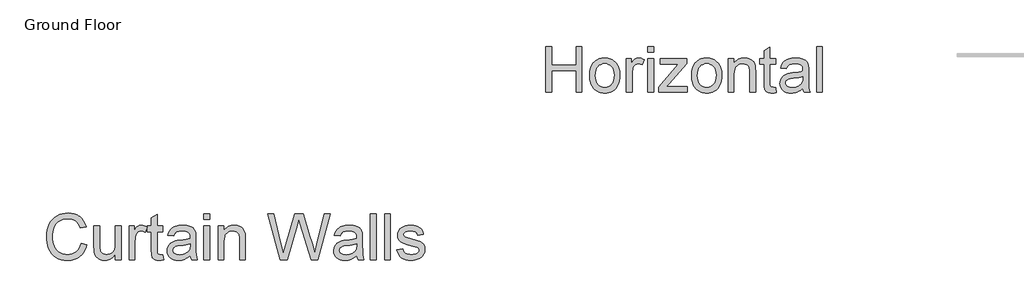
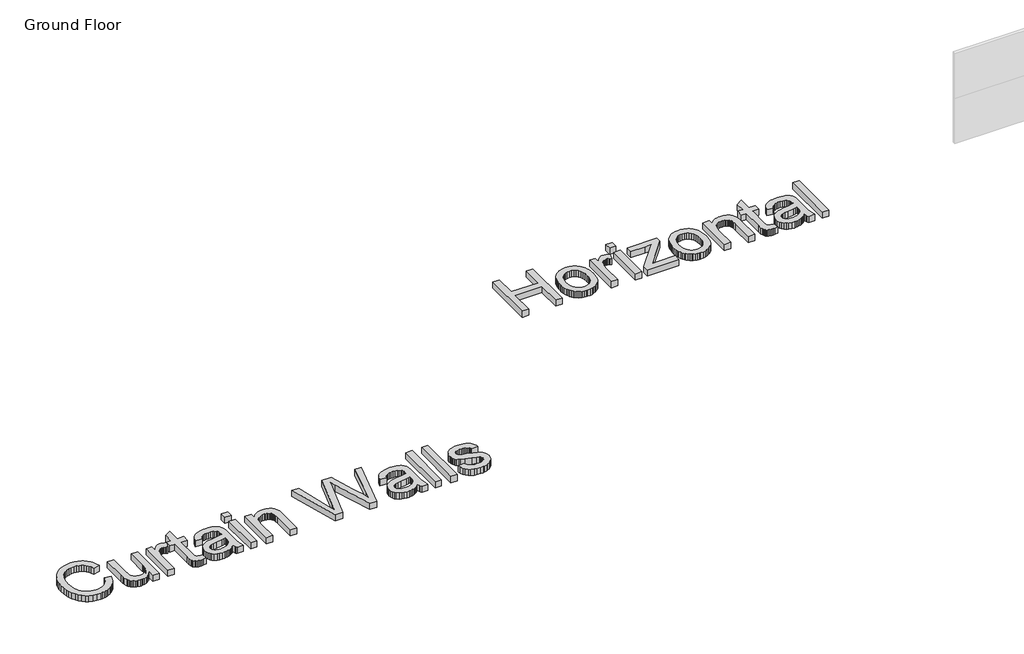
# One storey, part 5 of 9: 2 proxies.
"""IFC4 building model written with IfcOpenShell, lengths in millimetres."""

import ifcopenshell
import ifcopenshell.guid

model = None  # the IFC model being written
_history = None  # IfcOwnerHistory: only IFC2X3 demands one
_inside = {}  # id of a spatial element -> (the spatial element, [elements in it])
_under = {}  # id of a project, library or spatial element -> (it, [spatial elements below it])
_declared = {}  # id of a project -> (the project, [libraries it declares])
_typed = {}  # id of a type object -> (the type object, [elements of that type])
_made_of = {}  # id of a material, layer set ... -> (it, [elements and type objects made of it])


def new_model(schema):
    """Start an empty IFC model of exactly this schema.

    Asked for "IFC4X3", IfcOpenShell would pick the latest addendum, in which some entities
    have other attributes; the version numbers below select the first issue.
    IFC2X3 requires an IfcOwnerHistory on every rooted entity: one is made here for all.
    """
    global model, _history
    if schema == "IFC4X3":
        model = ifcopenshell.file(schema_version=(4, 3, 0, 0))
    else:
        model = ifcopenshell.file(schema=schema)
    _inside.clear()
    _under.clear()
    _declared.clear()
    _typed.clear()
    _made_of.clear()
    _history = None
    if model.schema == "IFC2X3":
        org = make("IfcOrganization", Name="unknown")
        user = make(
            "IfcPersonAndOrganization",
            ThePerson=make("IfcPerson", FamilyName="unknown"),
            TheOrganization=org,
        )
        app = make(
            "IfcApplication",
            ApplicationDeveloper=org,
            Version="unknown",
            ApplicationFullName="unknown",
            ApplicationIdentifier="unknown",
        )
        _history = make(
            "IfcOwnerHistory",
            OwningUser=user,
            OwningApplication=app,
            ChangeAction="ADDED",
            CreationDate=0,
        )
    return model


def make(cls, **values):
    """One entity of the class cls with the attributes given. An attribute that is None is left unset."""
    return model.create_entity(
        cls, **{name: value for name, value in values.items() if value is not None}
    )


def rooted(cls, **values):
    """An entity with a GlobalId (a new one), such as an element, a storey or a relation."""
    return make(cls, GlobalId=ifcopenshell.guid.new(), OwnerHistory=_history, **values)


def si_unit(unit_type, name, prefix=None):
    """IfcSIUnit, for example si_unit("LENGTHUNIT", "METRE", prefix="MILLI")."""
    return make("IfcSIUnit", UnitType=unit_type, Prefix=prefix, Name=name)


def assignment(units):
    """IfcUnitAssignment: the units of a project."""
    return None if units is None else make("IfcUnitAssignment", Units=units)


def point(xyz):
    """IfcCartesianPoint."""
    return None if xyz is None else make("IfcCartesianPoint", Coordinates=xyz)


def direction(xyz):
    """IfcDirection."""
    return None if xyz is None else make("IfcDirection", DirectionRatios=xyz)


def frame(location, z_axis=None, x_axis=None):
    """IfcAxis2Placement3D, a coordinate frame: its origin and axes. An axis left out is left unset."""
    return make(
        "IfcAxis2Placement3D",
        Location=point(location),
        Axis=direction(z_axis),
        RefDirection=direction(x_axis),
    )


def origin():
    """The frame at (0, 0, 0) with its axes left unset."""
    return frame((0.0, 0.0, 0.0))


def origin_with_axes():
    """The frame at (0, 0, 0) with the z axis (0, 0, 1) and the x axis (1, 0, 0) written out."""
    return frame((0.0, 0.0, 0.0), z_axis=(0.0, 0.0, 1.0), x_axis=(1.0, 0.0, 0.0))


def place(relative_to, where):
    """IfcLocalPlacement: puts the frame where relative to a parent placement (None: the world)."""
    return make(
        "IfcLocalPlacement", PlacementRelTo=relative_to, RelativePlacement=where
    )


def context(
    kind, dimensions, precision=None, world=None, true_north=None, identifier=None
):
    """IfcGeometricRepresentationContext, for example the 3D "Model" context."""
    return make(
        "IfcGeometricRepresentationContext",
        ContextIdentifier=identifier,
        ContextType=kind,
        CoordinateSpaceDimension=dimensions,
        Precision=precision,
        WorldCoordinateSystem=world,
        TrueNorth=true_north,
    )


def project(units=None, contexts=None):
    """IfcProject with its units and contexts."""
    return rooted(
        "IfcProject",
        Name="project",
        RepresentationContexts=contexts,
        UnitsInContext=assignment(units),
    )


def spatial(cls, under=None, at=None, **own):
    """A site, building, storey or space (cls), placed at a placement, below another one or the project."""
    s = rooted(cls, ObjectPlacement=at, **own)
    if under is not None:
        _under.setdefault(under.id(), (under, []))[1].append(s)
    return s


def polyline(points):
    """IfcPolyline through the points."""
    return make("IfcPolyline", Points=[point(p) for p in points])


def outline(outer, holes=None, kind="AREA"):
    """IfcArbitraryClosedProfileDef: a profile drawn as a closed curve; with holes, ...WithVoids."""
    if holes is None:
        return make("IfcArbitraryClosedProfileDef", ProfileType=kind, OuterCurve=outer)
    return make(
        "IfcArbitraryProfileDefWithVoids",
        ProfileType=kind,
        OuterCurve=outer,
        InnerCurves=holes,
    )


def extrude(swept, where, along, depth):
    """IfcExtrudedAreaSolid: the profile swept, set in the frame where, extruded along a direction by depth."""
    return make(
        "IfcExtrudedAreaSolid",
        SweptArea=swept,
        Position=where,
        ExtrudedDirection=direction(along),
        Depth=depth,
    )


def shape(context_of_items, identifier, shape_type, items):
    """IfcShapeRepresentation: the items that make up one representation, for example the "Body"."""
    return make(
        "IfcShapeRepresentation",
        ContextOfItems=context_of_items,
        RepresentationIdentifier=identifier,
        RepresentationType=shape_type,
        Items=items,
    )


def made_of(thing, what):
    """Note that an element or type object is made of a material, layer set ...; save() writes the relation."""
    if what is not None:
        _made_of.setdefault(what.id(), (what, []))[1].append(thing)
    return thing


def element(
    cls,
    number,
    at=None,
    inside=None,
    cuts=None,
    type_object=None,
    material=None,
    context=None,
    identifier="Body",
    shape_type=None,
    held_by="IfcProductDefinitionShape",
    body=None,
    shapes=None,
    **own,
):
    """One element of the class cls, such as IfcWall. Its Tag is "e" and its number.

    at: its placement. inside: the storey or other place that contains it. cuts: it is an
    opening in that element (IfcRelVoidsElement). A single representation is given by context,
    identifier, shape_type and body (its items); several are given by shapes. held_by: the class
    of the entity that holds the representations. save() writes the other relations.
    """
    e = rooted(cls, Tag="e%d" % number, ObjectPlacement=at, **own)
    if body is not None:
        shapes = [shape(context, identifier, shape_type, body)]
    if shapes is not None:
        e.Representation = make(held_by, Representations=shapes)
    if inside is not None:
        _inside.setdefault(inside.id(), (inside, []))[1].append(e)
    if cuts is not None:
        rooted(
            "IfcRelVoidsElement", RelatingBuildingElement=cuts, RelatedOpeningElement=e
        )
    if type_object is not None:
        _typed.setdefault(type_object.id(), (type_object, []))[1].append(e)
    return made_of(e, material)


def aggregate(whole, parts):
    """IfcRelAggregates: a whole, such as a stair, and the parts it consists of."""
    return rooted("IfcRelAggregates", RelatingObject=whole, RelatedObjects=parts)


def save(model, path):
    """Write the relations noted so far, then the file.

    IfcRelAggregates (storeys below a building ...), IfcRelContainedInSpatialStructure (elements
    in a storey), IfcRelDefinesByType, IfcRelAssociatesMaterial and IfcRelDeclares: one each for
    every whole, place, type object, material and project.
    """
    for whole, parts in _under.values():
        aggregate(whole, parts)
    for where, things in _inside.values():
        rooted(
            "IfcRelContainedInSpatialStructure",
            RelatedElements=things,
            RelatingStructure=where,
        )
    for kind, things in _typed.values():
        rooted("IfcRelDefinesByType", RelatedObjects=things, RelatingType=kind)
    for what, things in _made_of.values():
        rooted("IfcRelAssociatesMaterial", RelatedObjects=things, RelatingMaterial=what)
    for by, libraries in _declared.values():
        rooted("IfcRelDeclares", RelatingContext=by, RelatedDefinitions=libraries)
    model.write(path)


model = new_model("IFC4")

# Units and contexts
model_context = context("Model", 3, world=origin())
ifc_project = project(units=[si_unit("LENGTHUNIT", "METRE", prefix="MILLI")], contexts=[model_context])

# Site, building, storey
site = spatial("IfcSite", under=ifc_project)
building = spatial("IfcBuilding", under=site)
storey = spatial("IfcBuildingStorey", under=building, Name="Ground Floor", Elevation=0.0)

# Proxies
placement = place(None, origin())
element("IfcBuildingElementProxy", 1, Name="1200mm Arial", ObjectType="1200mm Arial", at=placement, inside=storey, context=model_context, shape_type="SweptSolid", body=[
    extrude(outline(polyline([(-73405.7068137, -17.5087086), (-73258.7977228, -55.3837086), (-73287.8675026, -146.7445929), (-73306.0204234, -188.1008828), (-73326.5853648, -226.5744047), (-73349.5623268, -262.1651584), (-73374.9513094, -294.873144), (-73402.7523126, -324.6983615), (-73432.9653364, -351.6408109), (-73465.2630992, -375.5480597), (-73499.3183194, -396.2676753), (-73535.1309969, -413.7996577), (-73572.7011319, -428.1440069), (-73612.0287242, -439.300723), (-73653.1137739, -447.2698059), (-73695.956281, -452.0512557), (-73740.5562455, -453.6450723), (-73830.1417391, -448.8210311), (-73910.9578791, -434.3489075), (-73983.0046653, -410.2287015), (-74046.2820978, -376.4604132), (-74101.6599387, -333.5461731), (-74150.0079501, -281.988112), (-74191.3261319, -221.7862299), (-74225.6144842, -152.9405268), (-74252.541242, -78.4279203), (-74271.7746404, -1.225328), (-74283.3146795, 78.6672502), (-74287.1613592, 161.2498141), (-74282.8125488, 249.8579462), (-74269.7661177, 332.6198425), (-74248.0220658, 409.535503), (-74217.5803933, 480.6049277), (-74179.122563, 544.6534895), (-74133.3300381, 600.5065612), (-74080.2028187, 648.1641429), (-74019.7409046, 687.6262345), (-73953.9976518, 718.5700378), (-73885.026416, 740.6727544), (-73812.8271972, 753.9343844), (-73737.3999955, 758.3549277), (-73653.3738059, 752.6342246), (-73576.3236461, 735.4721152), (-73540.4145774, 722.6005332), (-73506.2495161, 706.8685996), (-73473.8284623, 688.2763144), (-73443.151416, 666.8236777), (-73414.4784091, 642.7752047), (-73388.0694735, 616.3954107), (-73363.9246093, 587.6842956), (-73342.0438166, 556.6418595), (-73305.0744451, 487.5630243), (-73277.1613592, 409.158905), (-73424.0704501, 374.1532232), (-73447.2043279, 431.9251514), (-73475.0008478, 481.2863908), (-73507.4600097, 522.2369412), (-73544.5818137, 554.7768027), (-73586.5814586, 579.5695051), (-73633.6741433, 597.2785783), (-73685.8598677, 607.9040222), (-73743.1386319, 611.4458368), (-73809.0432839, 607.5184576), (-73869.3168989, 595.7363198), (-73923.9594771, 576.0994235), (-73972.9710183, 548.6077686), (-74015.7328258, 514.4987487), (-74051.6262029, 475.0097573), (-74080.6511496, 430.1407942), (-74102.807666, 379.8918595), (-74119.1896795, 326.5404746), (-74130.8911177, 272.3641607), (-74137.9119806, 217.3629178), (-74140.2522683, 161.5367459), (-74137.4815829, 91.3819164), (-74129.1695268, 25.8179959), (-74115.3160999, -35.1550155), (-74095.9213023, -91.5371177), (-74070.6713023, -142.2074835), (-74039.2522683, -186.0452853), (-74001.6642001, -223.0505233), (-73957.9070978, -253.2231973), (-73910.1060502, -276.6350403), (-73860.3861461, -293.3577853), (-73808.7473854, -303.3914324), (-73755.1897683, -306.7359814), (-73691.3205389, -302.1809388), (-73632.5622825, -288.5158109), (-73578.9149991, -265.7405978), (-73530.3786887, -233.8552995), (-73488.1010786, -193.0033819), (-73453.2298961, -143.3283109), (-73425.7651411, -84.8300865), (-73405.7068137, -17.5087086)])), origin_with_axes(), (0.0, 0.0, 1.0), 150.0),
    extrude(outline(polyline([(-72524.2522683, -435.2814359), (-72524.2522683, -286.9376859), (-72549.7354004, -326.0097296), (-72577.4063876, -359.8721674), (-72607.2652299, -388.5249995), (-72639.3119273, -411.9682257), (-72673.5464799, -430.2018461), (-72709.9688876, -443.2258606), (-72748.5791504, -451.0402694), (-72789.3772683, -453.6450723), (-72825.7727761, -451.8158819), (-72860.9308904, -446.3283109), (-72894.8516113, -437.1823592), (-72927.5349387, -424.3780268), (-72957.5372469, -408.8119757), (-72983.4149103, -391.3808677), (-73005.1679288, -372.084703), (-73022.7963023, -350.9234814), (-73037.2056596, -327.5923379), (-73049.3016291, -301.7864075), (-73066.5534046, -242.7501859), (-73073.0093705, -187.0854132), (-73075.1613592, -106.1706405), (-73075.1613592, 427.8094732), (-72928.2522683, 427.8094732), (-72928.2522683, -37.0200723), (-72926.0285467, -129.9859814), (-72919.3573819, -186.7984814), (-72910.5611283, -213.2769082), (-72897.945095, -236.7604842), (-72881.5092817, -257.2492093), (-72861.2536887, -274.7430836), (-72837.788046, -288.7399764), (-72811.7220836, -298.7377569), (-72783.0558016, -304.7364253), (-72751.7892001, -306.7359814), (-72719.5900701, -304.6915922), (-72688.4131347, -298.5584245), (-72658.258394, -288.3364785), (-72629.1258478, -274.0257541), (-72602.5936212, -256.1911483), (-72580.2398393, -235.3975581), (-72562.0645019, -211.6449835), (-72548.0676092, -184.9334245), (-72537.6483975, -153.5592236), (-72530.2061035, -115.8187228), (-72525.7407271, -71.7119224), (-72524.2522683, -21.2388223), (-72524.2522683, 427.8094732), (-72377.3431773, 427.8094732), (-72377.3431773, -435.2814359), (-72524.2522683, -435.2814359)])), origin_with_axes(), (0.0, 0.0, 1.0), 150.0),
    extrude(outline(polyline([(-72175.3431773, -435.2814359), (-72175.3431773, 427.8094732), (-72046.7977228, 427.8094732), (-72046.7977228, 300.1248141), (-72022.5878506, 340.9408652), (-71999.3105069, 374.1532232), (-71976.9656916, 399.761888), (-71955.5534046, 417.7668595), (-71934.1052512, 430.1945939), (-71911.6528364, 439.071547), (-71888.1961603, 444.3977189), (-71863.7352228, 446.1731095), (-71827.2948819, 443.3396578), (-71790.5676092, 434.8393027), (-71753.5534046, 420.6720442), (-71716.2522683, 400.8378823), (-71765.3176092, 269.1361777), (-71791.1414728, 282.3171081), (-71816.9653364, 291.7320584), (-71842.7892001, 297.3810286), (-71868.6130637, 299.2640186), (-71891.1282448, 297.4527615), (-71912.4777654, 292.0189902), (-71932.6616255, 282.9627047), (-71951.6798251, 270.283905), (-71968.8150346, 254.3950556), (-71983.3499245, 235.7086209), (-71995.2844948, 214.224601), (-72004.6187455, 189.9429959), (-72015.0379572, 149.8442743), (-72022.4802512, 107.8804959), (-72028.4340864, 18.3577686), (-72028.4340864, -435.2814359), (-72175.3431773, -435.2814359)])), origin_with_axes(), (0.0, 0.0, 1.0), 150.0),
    extrude(outline(polyline([(-71312.2522683, -312.7615495), (-71293.8886319, -439.5854132), (-71352.064058, -450.1301575), (-71403.7835183, -453.6450723), (-71441.2819202, -452.120747), (-71474.2970126, -447.5477711), (-71502.8287952, -439.9261447), (-71526.8772683, -429.2558677), (-71547.070095, -416.1108038), (-71564.0349387, -401.0648166), (-71577.7717995, -384.1179061), (-71588.2806773, -365.2700723), (-71596.0637029, -340.002139), (-71601.6230069, -303.7949302), (-71606.0704501, -198.5626859), (-71606.0704501, 280.9003823), (-71716.2522683, 280.9003823), (-71716.2522683, 427.8094732), (-71606.0704501, 427.8094732), (-71606.0704501, 637.5566323), (-71459.1613592, 723.9231095), (-71459.1613592, 427.8094732), (-71312.2522683, 427.8094732), (-71312.2522683, 280.9003823), (-71459.1613592, 280.9003823), (-71459.1613592, -194.2587086), (-71457.2245694, -242.60672), (-71451.4142001, -270.0087086), (-71441.263987, -285.1802285), (-71426.307666, -296.8368336), (-71405.1105779, -304.2611944), (-71376.2380637, -306.7359814), (-71312.2522683, -312.7615495)])), origin_with_axes(), (0.0, 0.0, 1.0), 150.0),
    extrude(outline(polyline([(-70614.4340864, -325.0996177), (-70649.2694025, -357.7919118), (-70684.6247825, -385.2835666), (-70720.5002264, -407.5745822), (-70756.8957342, -424.6649586), (-70794.2237704, -437.3437584), (-70832.8967995, -446.4000439), (-70872.9148215, -451.8338152), (-70914.2778364, -453.6450723), (-70979.6893244, -449.2872953), (-71037.0487881, -436.2139643), (-71086.3562278, -414.4250794), (-71127.6116433, -383.9206405), (-71160.1873712, -346.6374373), (-71183.4557484, -304.5122598), (-71197.4167746, -257.5451078), (-71202.0704501, -205.7359814), (-71200.3129927, -174.5859459), (-71195.0406205, -144.834703), (-71186.2533336, -116.4822527), (-71173.9511319, -89.528595), (-71158.7885786, -64.5655268), (-71141.420237, -42.184845), (-71121.846107, -22.3865495), (-71100.0661887, -5.1706405), (-71051.467112, 22.8052118), (-70997.2011319, 43.033905), (-70944.3339444, 54.2959789), (-70870.0903364, 65.127655), (-70719.8815296, 88.3691323), (-70661.8854359, 101.496263), (-70615.2948819, 115.627655), (-70614.4340864, 148.3378823), (-70616.9626731, 183.9532942), (-70624.548433, 213.9018027), (-70637.1913663, 238.1834078), (-70654.8914728, 256.7981095), (-70685.4855779, 275.3769448), (-70722.7508478, 288.6475414), (-70766.6872825, 296.6098993), (-70817.2948819, 299.2640186), (-70864.3517001, 297.4975946), (-70904.8090864, 292.1983226), (-70938.667041, 283.3662026), (-70965.9255637, 271.0012345), (-70988.3241788, 254.1350236), (-71007.6024103, 231.7991749), (-71023.7602583, 203.9936884), (-71036.7977228, 170.7185641), (-71183.7068137, 189.0822005), (-71172.5254394, 231.4046436), (-71158.2057484, 269.4231095), (-71140.7477406, 303.1375982), (-71120.151416, 332.5481095), (-71095.5290793, 358.2464405), (-71065.9930353, 380.824388), (-71031.5432839, 400.2819519), (-70992.1798251, 416.6191323), (-70948.700688, 429.5489973), (-70901.9039018, 438.7846152), (-70851.7894664, 444.325986), (-70798.3573819, 446.1731095), (-70746.1268244, 444.5411848), (-70699.0431063, 439.6454107), (-70657.1062278, 431.4857871), (-70620.3161887, 420.0623141), (-70588.3681241, 406.1730208), (-70560.9571688, 390.6159362), (-70538.0833229, 373.3910605), (-70519.7465864, 354.4983936), (-70504.8799316, 333.4716713), (-70492.4163308, 309.8446294), (-70474.698291, 254.7895868), (-70469.3183194, 204.002655), (-70467.5249955, 126.2441323), (-70467.5249955, -56.5314359), (-70465.6599387, -215.7427285), (-70460.0647683, -311.7572882), (-70449.0178933, -374.8464217), (-70430.7977228, -435.2814359), (-70577.7068137, -435.2814359), (-70590.7622114, -410.7487655), (-70601.2352228, -384.2075723), (-70614.4340864, -325.0996177)]), holes=[polyline([(-70614.4340864, -31.2814359), (-70658.8367853, -43.9961021), (-70713.1386319, -55.7423734), (-70851.4397683, -76.3297314), (-70927.6560325, -87.5918052), (-70977.8332342, -100.1450723), (-71010.7227938, -116.428453), (-71035.0761319, -138.8808677), (-71050.1400523, -165.7807257), (-71055.1613592, -195.4064359), (-71052.4265403, -218.2354487), (-71044.2220836, -239.0918052), (-71030.5479891, -257.9755055), (-71011.4042569, -274.8865495), (-70986.9702192, -288.820676), (-70957.4252086, -298.7736234), (-70922.7692249, -304.7453919), (-70883.0022683, -306.7359814), (-70842.401416, -304.5391596), (-70804.0960183, -297.9486944), (-70768.0860751, -286.9645858), (-70734.3715864, -271.5868336), (-70703.9568137, -253.088698), (-70677.8460183, -232.7434388), (-70656.0392001, -210.5510559), (-70638.5363592, -186.5115495), (-70628.3682129, -164.9916632), (-70621.1052512, -138.8808677), (-70616.7474742, -108.1791632), (-70615.2948819, -72.8865495), (-70614.4340864, -31.2814359)])]), origin_with_axes(), (0.0, 0.0, 1.0), 150.0),
    extrude(outline(polyline([(-70265.5249955, -435.2814359), (-70265.5249955, 427.8094732), (-70118.6159046, 427.8094732), (-70118.6159046, -435.2814359), (-70265.5249955, -435.2814359)])), origin_with_axes(), (0.0, 0.0, 1.0), 150.0),
    extrude(outline(polyline([(-70265.5249955, 593.0822005), (-70265.5249955, 739.9912914), (-70118.6159046, 739.9912914), (-70118.6159046, 593.0822005), (-70265.5249955, 593.0822005)])), origin_with_axes(), (0.0, 0.0, 1.0), 150.0),
    extrude(outline(polyline([(-69898.2522683, -435.2814359), (-69898.2522683, 427.8094732), (-69751.3431773, 427.8094732), (-69751.3431773, 307.2981095), (-69727.1064053, 339.8469377), (-69700.3051802, 368.055922), (-69670.9395019, 391.9250627), (-69639.0093705, 411.4543595), (-69604.514786, 426.6438127), (-69567.4557484, 437.493422), (-69527.8322576, 444.0031877), (-69485.6443137, 446.1731095), (-69448.6749423, 444.4246188), (-69413.2298961, 439.1791465), (-69379.3091752, 430.4366926), (-69346.9127796, 418.1972573), (-69317.2691362, 403.1154036), (-69291.6066717, 385.8456948), (-69269.9253862, 366.3881309), (-69252.2252796, 344.7427118), (-69225.5047541, 294.9959078), (-69208.1812455, 236.7128823), (-69202.3708762, 180.9763766), (-69200.4340864, 94.6816323), (-69200.4340864, -435.2814359), (-69347.3431773, -435.2814359), (-69347.3431773, 74.8833368), (-69351.5754217, 150.8485357), (-69356.8657271, 180.5997786), (-69364.2721546, 204.8634505), (-69374.3596014, 225.2983759), (-69387.6929643, 243.5633794), (-69404.2722434, 259.6584611), (-69424.0974387, 273.5836209), (-69446.4870871, 284.8187949), (-69470.7597256, 292.8439192), (-69496.9153542, 297.6589938), (-69524.9539728, 299.2640186), (-69569.5629039, 295.6594377), (-69610.9976518, 284.8456948), (-69649.2582164, 266.8227899), (-69684.3445978, 241.5907232), (-69700.0473899, 225.5539245), (-69713.6564764, 206.2801763), (-69725.1718572, 183.7694785), (-69734.5935325, 158.0218311), (-69747.1557661, 96.8156877), (-69751.3431773, 22.6617459), (-69751.3431773, -435.2814359), (-69898.2522683, -435.2814359)])), origin_with_axes(), (0.0, 0.0, 1.0), 150.0),
    extrude(outline(polyline([(-68310.6585183, -435.2814359), (-68631.1613592, 739.9912914), (-68479.6613592, 739.9912914), (-68293.729541, -32.4291632), (-68236.3431773, -270.8695041), (-68174.9397683, -59.9746177), (-67941.9511319, 739.9912914), (-67723.5960183, 739.9912914), (-67554.3062455, 160.1020868), (-67515.6601163, 52.574388), (-67481.7842285, -55.0967768), (-67452.6785822, -162.9114075), (-67428.3431773, -270.8695041), (-67372.6784046, -39.3155268), (-67185.0249955, 739.9912914), (-67033.5249955, 739.9912914), (-67354.3147683, -435.2814359), (-67511.2664728, -435.2814359), (-67793.0335183, 471.4231095), (-67832.3431773, 597.9600414), (-67876.5306773, 445.5992459), (-68133.3346546, -435.2814359), (-68310.6585183, -435.2814359)])), origin_with_axes(), (0.0, 0.0, 1.0), 150.0),
    extrude(outline(polyline([(-66354.0704501, -325.0996177), (-66388.9057661, -357.7919118), (-66424.2611461, -385.2835666), (-66460.13659, -407.5745822), (-66496.5320978, -424.6649586), (-66533.860134, -437.3437584), (-66572.5331631, -446.4000439), (-66612.5511852, -451.8338152), (-66653.9142001, -453.6450723), (-66719.325688, -449.2872953), (-66776.6851518, -436.2139643), (-66825.9925914, -414.4250794), (-66867.2480069, -383.9206405), (-66899.8237349, -346.6374373), (-66923.092112, -304.5122598), (-66937.0531383, -257.5451078), (-66941.7068137, -205.7359814), (-66939.9493563, -174.5859459), (-66934.6769842, -144.834703), (-66925.8896972, -116.4822527), (-66913.5874955, -89.528595), (-66898.4249423, -64.5655268), (-66881.0566006, -42.184845), (-66861.4824707, -22.3865495), (-66839.7025523, -5.1706405), (-66791.1034756, 22.8052118), (-66736.8374955, 43.033905), (-66683.970308, 54.2959789), (-66609.7267001, 65.127655), (-66459.5178933, 88.3691323), (-66401.5217995, 101.496263), (-66354.9312455, 115.627655), (-66354.0704501, 148.3378823), (-66356.5990367, 183.9532942), (-66364.1847967, 213.9018027), (-66376.8277299, 238.1834078), (-66394.5278364, 256.7981095), (-66425.1219416, 275.3769448), (-66462.3872114, 288.6475414), (-66506.3236461, 296.6098993), (-66556.9312455, 299.2640186), (-66603.9880637, 297.4975946), (-66644.4454501, 292.1983226), (-66678.3034046, 283.3662026), (-66705.5619273, 271.0012345), (-66727.9605424, 254.1350236), (-66747.2387739, 231.7991749), (-66763.3966219, 203.9936884), (-66776.4340864, 170.7185641), (-66923.3431773, 189.0822005), (-66912.1618031, 231.4046436), (-66897.842112, 269.4231095), (-66880.3841042, 303.1375982), (-66859.7877796, 332.5481095), (-66835.165443, 358.2464405), (-66805.6293989, 380.824388), (-66771.1796475, 400.2819519), (-66731.8161887, 416.6191323), (-66688.3370516, 429.5489973), (-66641.5402654, 438.7846152), (-66591.42583, 444.325986), (-66537.9937455, 446.1731095), (-66485.763188, 444.5411848), (-66438.67947, 439.6454107), (-66396.7425914, 431.4857871), (-66359.9525523, 420.0623141), (-66328.0044877, 406.1730208), (-66300.5935325, 390.6159362), (-66277.7196866, 373.3910605), (-66259.3829501, 354.4983936), (-66244.5162952, 333.4716713), (-66232.0526944, 309.8446294), (-66214.3346546, 254.7895868), (-66208.954683, 204.002655), (-66207.1613592, 126.2441323), (-66207.1613592, -56.5314359), (-66205.2963023, -215.7427285), (-66199.7011319, -311.7572882), (-66188.6542569, -374.8464217), (-66170.4340864, -435.2814359), (-66317.3431773, -435.2814359), (-66330.3985751, -410.7487655), (-66340.8715864, -384.2075723), (-66354.0704501, -325.0996177)]), holes=[polyline([(-66354.0704501, -31.2814359), (-66398.4731489, -43.9961021), (-66452.7749955, -55.7423734), (-66591.0761319, -76.3297314), (-66667.2923961, -87.5918052), (-66717.4695978, -100.1450723), (-66750.3591575, -116.428453), (-66774.7124955, -138.8808677), (-66789.776416, -165.7807257), (-66794.7977228, -195.4064359), (-66792.0629039, -218.2354487), (-66783.8584472, -239.0918052), (-66770.1843528, -257.9755055), (-66751.0406205, -274.8865495), (-66726.6065829, -288.820676), (-66697.0615722, -298.7736234), (-66662.4055886, -304.7453919), (-66622.6386319, -306.7359814), (-66582.0377796, -304.5391596), (-66543.7323819, -297.9486944), (-66507.7224387, -286.9645858), (-66474.0079501, -271.5868336), (-66443.5931773, -253.088698), (-66417.4823819, -232.7434388), (-66395.6755637, -210.5510559), (-66378.1727228, -186.5115495), (-66368.0045765, -164.9916632), (-66360.7416148, -138.8808677), (-66356.3838379, -108.1791632), (-66354.9312455, -72.8865495), (-66354.0704501, -31.2814359)])]), origin_with_axes(), (0.0, 0.0, 1.0), 150.0),
    extrude(outline(polyline([(-66005.1613592, -435.2814359), (-66005.1613592, 739.9912914), (-65858.2522683, 739.9912914), (-65858.2522683, -435.2814359), (-66005.1613592, -435.2814359)])), origin_with_axes(), (0.0, 0.0, 1.0), 150.0),
    extrude(outline(polyline([(-65637.8886319, -435.2814359), (-65637.8886319, 739.9912914), (-65490.979541, 739.9912914), (-65490.979541, -435.2814359), (-65637.8886319, -435.2814359)])), origin_with_axes(), (0.0, 0.0, 1.0), 150.0),
    extrude(outline(polyline([(-65325.7068137, -178.1905268), (-65178.7977228, -159.8268905), (-65169.9207697, -193.3261802), (-65155.6279785, -222.6649586), (-65135.9193492, -247.8432257), (-65110.7948819, -268.8609814), (-65080.1828435, -285.4312939), (-65044.0115012, -297.2672314), (-65002.2808549, -304.3687939), (-64954.9909046, -306.7359814), (-64907.7547541, -304.5660595), (-64867.0463023, -298.0562939), (-64832.8655495, -287.2066845), (-64805.2124955, -272.0172314), (-64783.8719416, -253.9046603), (-64768.6286887, -234.2856973), (-64759.482737, -213.1603422), (-64756.4340864, -190.528595), (-64759.5006702, -170.6944331), (-64768.7004217, -153.0839927), (-64784.0333407, -137.697274), (-64805.4994273, -124.5342768), (-64860.5186035, -105.8837086), (-64956.7124955, -82.6422314), (-65090.7813876, -43.8705694), (-65177.9369273, -10.7658109), (-65207.858536, 5.8314014), (-65233.9244984, 25.3517317), (-65256.1348144, 47.7951799), (-65274.4894842, 73.1617459), (-65288.8629749, 100.6892672), (-65299.1297541, 129.6155811), (-65305.2898215, 159.9406877), (-65307.3431773, 191.6645868), (-65305.6933194, 220.6716003), (-65300.7437455, 248.5846862), (-65292.4944558, 275.4038446), (-65280.9454501, 301.1290755), (-65266.5450594, 325.2403148), (-65249.7416148, 347.2174987), (-65230.5351163, 367.0606273), (-65208.9255637, 384.7697005), (-65168.3605779, 408.405709), (-65115.5292569, 428.2398709), (-65054.4486461, 441.6897999), (-64989.135791, 446.1731095), (-64939.765585, 444.3708191), (-64893.5157626, 438.9639476), (-64850.3863237, 429.9524952), (-64810.3772683, 417.3364618), (-64774.439058, 401.644878), (-64743.5221546, 383.4067743), (-64717.626558, 362.6221507), (-64696.7522683, 339.2910073), (-64679.823291, 312.5973816), (-64665.7636319, 281.7253112), (-64654.573291, 246.6747963), (-64646.2522683, 207.4458368), (-64793.1613592, 189.0822005), (-64800.1642889, 213.6238375), (-64811.7043279, 235.3140897), (-64827.7814764, 254.1529568), (-64848.3957342, 270.1404391), (-64873.6367675, 282.8820051), (-64903.5942427, 291.9831237), (-64938.2681596, 297.4437949), (-64977.6585183, 299.2640186), (-65023.3524103, 297.5244945), (-65062.0164728, 292.305922), (-65093.6507058, 283.6083013), (-65118.2551092, 271.4316323), (-65136.7084117, 256.9415755), (-65149.8893421, 241.3037914), (-65157.7979004, 224.51828), (-65160.4340864, 206.5850414), (-65156.0583762, 183.9891607), (-65142.9312455, 163.8322005), (-65120.4788308, 145.8272289), (-65088.1272683, 131.408905), (-64961.5903364, 100.1333368), (-64831.7895552, 61.7562061), (-64745.9610751, 30.9827686), (-64715.7615012, 15.9726479), (-64689.0051092, -2.0861234), (-64665.6918989, -23.1935453), (-64645.8218705, -47.3496177), (-64629.9419877, -74.5902072), (-64618.5992143, -104.9511802), (-64611.7935502, -138.4325368), (-64609.5249955, -175.0342768), (-64612.1880815, -211.797416), (-64620.1773393, -247.4845609), (-64633.492769, -282.0957115), (-64652.1343705, -315.6308677), (-64675.7972789, -346.7540034), (-64704.1766291, -374.1290922), (-64737.272421, -397.7561341), (-64775.0846546, -417.6351291), (-64816.5821688, -433.3894792), (-64860.7338023, -444.6425865), (-64907.5395552, -451.3944508), (-64956.9994273, -453.6450723), (-65036.0670765, -449.3052285), (-65105.1279785, -436.2856973), (-65164.1821333, -414.5864785), (-65213.229541, -384.2075723), (-65253.2923961, -345.2924444), (-65285.3928933, -297.9845609), (-65309.5310325, -242.2839217), (-65325.7068137, -178.1905268)])), origin_with_axes(), (0.0, 0.0, 1.0), 150.0),
])
element("IfcBuildingElementProxy", 2, Name="1200mm Arial", ObjectType="1200mm Arial", at=placement, inside=storey, context=model_context, shape_type="SweptSolid", body=[
    extrude(outline(polyline([(-61516.4411736, 3850.5609939), (-61516.4411736, 5025.8337212), (-61369.5320827, 5025.8337212), (-61369.5320827, 4548.3791757), (-60745.1684463, 4548.3791757), (-60745.1684463, 5025.8337212), (-60598.2593554, 5025.8337212), (-60598.2593554, 3850.5609939), (-60745.1684463, 3850.5609939), (-60745.1684463, 4401.4700848), (-61369.5320827, 4401.4700848), (-61369.5320827, 3850.5609939), (-61516.4411736, 3850.5609939)])), origin_with_axes(), (0.0, 0.0, 1.0), 150.0),
    extrude(outline(polyline([(-60396.2593554, 4282.1064484), (-60394.2732492, 4339.9276931), (-60388.3149307, 4393.8843249), (-60378.3843998, 4443.9763437), (-60364.4816565, 4490.2037496), (-60346.6067009, 4532.5665425), (-60324.7595329, 4571.0647226), (-60298.9401526, 4605.6982897), (-60269.1485599, 4636.4672439), (-60241.8810706, 4658.8613756), (-60213.1609889, 4678.2696231), (-60182.9883149, 4694.6919864), (-60151.3630486, 4708.1284655), (-60118.2851899, 4718.5790603), (-60083.7547389, 4726.0437709), (-60010.3360599, 4732.0155393), (-59968.8407874, 4730.1975573), (-59929.2867879, 4724.7436111), (-59891.6740615, 4715.6537007), (-59856.0026082, 4702.9278263), (-59822.272428, 4686.5659877), (-59790.4835209, 4666.5681849), (-59760.6358868, 4642.9344181), (-59732.7295258, 4615.6646871), (-59707.4772842, 4585.1893897), (-59685.5920081, 4551.9389236), (-59667.0736975, 4515.9132888), (-59651.9223525, 4477.1124854), (-59640.1379731, 4435.5365132), (-59631.7205592, 4391.1853724), (-59626.6701109, 4344.059063), (-59624.9866281, 4294.1575848), (-59627.9635457, 4215.5203334), (-59636.8942986, 4145.7421018), (-59651.7788866, 4084.8228902), (-59672.6173099, 4032.7626984), (-59699.1495365, 3987.7951026), (-59731.1155344, 3948.1536785), (-59768.5153035, 3913.8384264), (-59811.348844, 3884.8493462), (-59857.9483646, 3861.8141011), (-59906.6460741, 3845.3603547), (-59957.4419726, 3835.4881068), (-60010.3360599, 3832.1973575), (-60052.4858957, 3834.0086146), (-60092.5689257, 3839.4423859), (-60130.5851499, 3848.4986714), (-60166.5345684, 3861.1774712), (-60200.4171812, 3877.4787851), (-60232.2329882, 3897.4026132), (-60261.9819894, 3920.9489555), (-60289.6641849, 3948.1178121), (-60314.647428, 3978.6939839), (-60336.299572, 4012.4622723), (-60354.6206169, 4049.4226771), (-60369.6105628, 4089.5751984), (-60381.2694095, 4132.9198362), (-60389.5971572, 4179.4565905), (-60394.5938058, 4229.1854612), (-60396.2593554, 4282.1064484)]), holes=[polyline([(-60249.3502645, 4282.3933802), (-60245.1000869, 4211.1356565), (-60232.3495542, 4149.436349), (-60211.0986665, 4097.2954577), (-60181.3474236, 4054.7129825), (-60145.158148, 4021.6351239), (-60104.5931622, 3998.008082), (-60059.6524662, 3983.8318568), (-60010.3360599, 3979.1064484), (-59961.270719, 3983.8587567), (-59916.5093554, 3998.1156814), (-59876.051969, 4021.8772226), (-59839.8985599, 4055.1433802), (-59810.147317, 4098.1472865), (-59788.8964292, 4151.1220734), (-59776.1458966, 4214.067741), (-59771.895719, 4286.9842893), (-59776.1727964, 4355.982425), (-59789.0040287, 4416.067741), (-59810.3894157, 4467.2402375), (-59840.3289577, 4509.4999143), (-59876.616866, 4542.577773), (-59917.0473525, 4566.2048149), (-59961.6204172, 4580.3810401), (-60010.3360599, 4585.1064484), (-60059.6524662, 4580.3989733), (-60104.5931622, 4566.2765479), (-60145.158148, 4542.7391722), (-60181.3474236, 4509.7868462), (-60211.0986665, 4467.3299037), (-60232.3495542, 4415.2786785), (-60245.1000869, 4353.6331707), (-60249.3502645, 4282.3933802)])]), origin_with_axes(), (0.0, 0.0, 1.0), 150.0),
    extrude(outline(polyline([(-59459.7139008, 3850.5609939), (-59459.7139008, 4713.651903), (-59331.1684463, 4713.651903), (-59331.1684463, 4585.9672439), (-59306.9585741, 4626.783295), (-59283.6812304, 4659.995653), (-59261.336415, 4685.6043177), (-59239.9241281, 4703.6092893), (-59218.4759747, 4716.0370237), (-59196.0235599, 4724.9139768), (-59172.5668838, 4730.2401487), (-59148.1059463, 4732.0155393), (-59111.6656054, 4729.1820876), (-59074.9383327, 4720.6817325), (-59037.9241281, 4706.514474), (-59000.6229917, 4686.6803121), (-59049.6883327, 4554.9786075), (-59075.5121963, 4568.1595379), (-59101.3360599, 4577.5744882), (-59127.1599236, 4583.2234584), (-59152.9837872, 4585.1064484), (-59175.4989683, 4583.2951913), (-59196.8484889, 4577.86142), (-59217.032349, 4568.8051345), (-59236.0505486, 4556.1263348), (-59253.1857581, 4540.2374854), (-59267.720648, 4521.5510507), (-59279.6552183, 4500.0670308), (-59288.989469, 4475.7854257), (-59299.4086807, 4435.6867041), (-59306.8509747, 4393.7229257), (-59312.8048099, 4304.2001984), (-59312.8048099, 3850.5609939), (-59459.7139008, 3850.5609939)])), origin_with_axes(), (0.0, 0.0, 1.0), 150.0),
    extrude(outline(polyline([(-58908.8048099, 4878.9246302), (-58908.8048099, 5025.8337212), (-58761.895719, 5025.8337212), (-58761.895719, 4878.9246302), (-58908.8048099, 4878.9246302)])), origin_with_axes(), (0.0, 0.0, 1.0), 150.0),
    extrude(outline(polyline([(-58908.8048099, 3850.5609939), (-58908.8048099, 4713.651903), (-58761.895719, 4713.651903), (-58761.895719, 3850.5609939), (-58908.8048099, 3850.5609939)])), origin_with_axes(), (0.0, 0.0, 1.0), 150.0),
    extrude(outline(polyline([(-58633.3502645, 3850.5609939), (-58633.3502645, 3988.8621302), (-58126.3417417, 4566.7428121), (-58276.4070827, 4566.7428121), (-58596.6229917, 4566.7428121), (-58596.6229917, 4713.651903), (-57917.1684463, 4713.651903), (-57917.1684463, 4588.8365621), (-58366.7906054, 4076.089403), (-58435.6542417, 3997.4700848), (-58265.7906054, 3997.4700848), (-57898.8048099, 3997.4700848), (-57898.8048099, 3850.5609939), (-58633.3502645, 3850.5609939)])), origin_with_axes(), (0.0, 0.0, 1.0), 150.0),
    extrude(outline(polyline([(-57788.6229917, 4282.1064484), (-57786.6368856, 4339.9276931), (-57780.678567, 4393.8843249), (-57770.7480361, 4443.9763437), (-57756.8452929, 4490.2037496), (-57738.9703373, 4532.5665425), (-57717.1231693, 4571.0647226), (-57691.303789, 4605.6982897), (-57661.5121963, 4636.4672439), (-57634.2447069, 4658.8613756), (-57605.5246253, 4678.2696231), (-57575.3519513, 4694.6919864), (-57543.7266849, 4708.1284655), (-57510.6488263, 4718.5790603), (-57476.1183753, 4726.0437709), (-57402.6996963, 4732.0155393), (-57361.2044237, 4730.1975573), (-57321.6504243, 4724.7436111), (-57284.0376979, 4715.6537007), (-57248.3662446, 4702.9278263), (-57214.6360644, 4686.5659877), (-57182.8471572, 4666.5681849), (-57152.9995232, 4642.9344181), (-57125.0931622, 4615.6646871), (-57099.8409205, 4585.1893897), (-57077.9556444, 4551.9389236), (-57059.4373339, 4515.9132888), (-57044.2859889, 4477.1124854), (-57032.5016095, 4435.5365132), (-57024.0841956, 4391.1853724), (-57019.0337472, 4344.059063), (-57017.3502645, 4294.1575848), (-57020.3271821, 4215.5203334), (-57029.2579349, 4145.7421018), (-57044.142523, 4084.8228902), (-57064.9809463, 4032.7626984), (-57091.5131728, 3987.7951026), (-57123.4791707, 3948.1536785), (-57160.8789399, 3913.8384264), (-57203.7124804, 3884.8493462), (-57250.312001, 3861.8141011), (-57299.0097105, 3845.3603547), (-57349.8056089, 3835.4881068), (-57402.6996963, 3832.1973575), (-57444.849532, 3834.0086146), (-57484.9325621, 3839.4423859), (-57522.9487863, 3848.4986714), (-57558.8982048, 3861.1774712), (-57592.7808176, 3877.4787851), (-57624.5966246, 3897.4026132), (-57654.3456258, 3920.9489555), (-57682.0278213, 3948.1178121), (-57707.0110644, 3978.6939839), (-57728.6632084, 4012.4622723), (-57746.9842533, 4049.4226771), (-57761.9741991, 4089.5751984), (-57773.6330459, 4132.9198362), (-57781.9607936, 4179.4565905), (-57786.9574422, 4229.1854612), (-57788.6229917, 4282.1064484)]), holes=[polyline([(-57641.7139008, 4282.3933802), (-57637.4637233, 4211.1356565), (-57624.7131906, 4149.436349), (-57603.4623028, 4097.2954577), (-57573.7110599, 4054.7129825), (-57537.5217844, 4021.6351239), (-57496.9567986, 3998.008082), (-57452.0161025, 3983.8318568), (-57402.6996963, 3979.1064484), (-57353.6343554, 3983.8587567), (-57308.8729917, 3998.1156814), (-57268.4156054, 4021.8772226), (-57232.2621963, 4055.1433802), (-57202.5109534, 4098.1472865), (-57181.2600656, 4151.1220734), (-57168.5095329, 4214.067741), (-57164.2593554, 4286.9842893), (-57168.5364328, 4355.982425), (-57181.367665, 4416.067741), (-57202.7530521, 4467.2402375), (-57232.692594, 4509.4999143), (-57268.9805024, 4542.577773), (-57309.4109889, 4566.2048149), (-57353.9840535, 4580.3810401), (-57402.6996963, 4585.1064484), (-57452.0161025, 4580.3989733), (-57496.9567986, 4566.2765479), (-57537.5217844, 4542.7391722), (-57573.7110599, 4509.7868462), (-57603.4623028, 4467.3299037), (-57624.7131906, 4415.2786785), (-57637.4637233, 4353.6331707), (-57641.7139008, 4282.3933802)])]), origin_with_axes(), (0.0, 0.0, 1.0), 150.0),
    extrude(outline(polyline([(-56852.0775372, 3850.5609939), (-56852.0775372, 4713.651903), (-56705.1684463, 4713.651903), (-56705.1684463, 4593.1405393), (-56680.9316743, 4625.6893675), (-56654.1304491, 4653.8983518), (-56624.7647709, 4677.7674925), (-56592.8346395, 4697.2967893), (-56558.340055, 4712.4862425), (-56521.2810173, 4723.3358518), (-56481.6575265, 4729.8456175), (-56439.4695827, 4732.0155393), (-56402.5002112, 4730.2670486), (-56367.055165, 4725.0215763), (-56333.1344442, 4716.2791224), (-56300.7380486, 4704.0396871), (-56271.0944051, 4688.9578334), (-56245.4319406, 4671.6881246), (-56223.7506551, 4652.2305606), (-56206.0505486, 4630.5851416), (-56179.330023, 4580.8383376), (-56162.0065145, 4522.5553121), (-56156.1961452, 4466.8188064), (-56154.2593554, 4380.5240621), (-56154.2593554, 3850.5609939), (-56301.1684463, 3850.5609939), (-56301.1684463, 4360.7257666), (-56305.4006906, 4436.6909655), (-56310.690996, 4466.4422084), (-56318.0974236, 4490.7058802), (-56328.1848703, 4511.1408057), (-56341.5182332, 4529.4058092), (-56358.0975123, 4545.5008909), (-56377.9227077, 4559.4260507), (-56400.3123561, 4570.6612247), (-56424.5849946, 4578.686349), (-56450.7406231, 4583.5014236), (-56478.7792417, 4585.1064484), (-56523.3881728, 4581.5018675), (-56564.8229207, 4570.6881246), (-56603.0834853, 4552.6652197), (-56638.1698667, 4527.433153), (-56653.8726588, 4511.3963543), (-56667.4817453, 4492.1226061), (-56678.9971262, 4469.6119083), (-56688.4188014, 4443.8642609), (-56700.9810351, 4382.6581175), (-56705.1684463, 4308.5041757), (-56705.1684463, 3850.5609939), (-56852.0775372, 3850.5609939)])), origin_with_axes(), (0.0, 0.0, 1.0), 150.0),
    extrude(outline(polyline([(-55640.0775372, 3973.0808802), (-55621.7139008, 3846.2570166), (-55679.889327, 3835.7122723), (-55731.6087872, 3832.1973575), (-55769.1071892, 3833.7216828), (-55802.1222815, 3838.2946587), (-55830.6540642, 3845.9162851), (-55854.7025372, 3856.5865621), (-55874.8953639, 3869.731626), (-55891.8602077, 3884.7776132), (-55905.5970684, 3901.7245237), (-55916.1059463, 3920.5723575), (-55923.8889719, 3945.8402908), (-55929.4482758, 3982.0474996), (-55933.895719, 4087.2797439), (-55933.895719, 4566.7428121), (-56044.0775372, 4566.7428121), (-56044.0775372, 4713.651903), (-55933.895719, 4713.651903), (-55933.895719, 4923.3990621), (-55786.9866281, 5009.7655393), (-55786.9866281, 4713.651903), (-55640.0775372, 4713.651903), (-55640.0775372, 4566.7428121), (-55786.9866281, 4566.7428121), (-55786.9866281, 4091.5837212), (-55785.0498383, 4043.2357098), (-55779.239469, 4015.8337212), (-55769.0892559, 4000.6622013), (-55754.1329349, 3989.0055962), (-55732.9358469, 3981.5812354), (-55704.0633327, 3979.1064484), (-55640.0775372, 3973.0808802)])), origin_with_axes(), (0.0, 0.0, 1.0), 150.0),
    extrude(outline(polyline([(-54942.2593554, 3960.7428121), (-54977.0946714, 3928.050518), (-55012.4500514, 3900.5588632), (-55048.3254953, 3878.2678476), (-55084.7210031, 3861.1774712), (-55122.0490393, 3848.4986714), (-55160.7220684, 3839.4423859), (-55200.7400905, 3834.0086146), (-55242.1031054, 3832.1973575), (-55307.5145933, 3836.5551345), (-55364.8740571, 3849.6284655), (-55414.1814967, 3871.4173504), (-55455.4369122, 3901.9217893), (-55488.0126402, 3939.2049925), (-55511.2810173, 3981.33017), (-55525.2420436, 4028.297322), (-55529.895719, 4080.1064484), (-55528.1382616, 4111.2564839), (-55522.8658895, 4141.0077268), (-55514.0786025, 4169.3601771), (-55501.7764008, 4196.3138348), (-55486.6138476, 4221.276903), (-55469.2455059, 4243.6575848), (-55449.671376, 4263.4558802), (-55427.8914577, 4280.6717893), (-55379.2923809, 4308.6476416), (-55325.0264008, 4328.8763348), (-55272.1592133, 4340.1384087), (-55197.9156054, 4350.9700848), (-55047.7067986, 4374.2115621), (-54989.7107048, 4387.3386927), (-54943.1201508, 4401.4700848), (-54942.2593554, 4434.1803121), (-54944.787942, 4469.795724), (-54952.373702, 4499.7442325), (-54965.0166352, 4524.0258376), (-54982.7167417, 4542.6405393), (-55013.3108469, 4561.2193746), (-55050.5761167, 4574.4899712), (-55094.5125514, 4582.4523291), (-55145.1201508, 4585.1064484), (-55192.176969, 4583.3400244), (-55232.6343554, 4578.0407524), (-55266.4923099, 4569.2086324), (-55293.7508327, 4556.8436643), (-55316.1494477, 4539.9774534), (-55335.4276792, 4517.6416047), (-55351.5855273, 4489.8361182), (-55364.6229917, 4456.5609939), (-55511.5320827, 4474.9246302), (-55500.3507084, 4517.2470734), (-55486.0310173, 4555.2655393), (-55468.5730095, 4588.980028), (-55447.9766849, 4618.3905393), (-55423.3543483, 4644.0888703), (-55393.8183042, 4666.6668177), (-55359.3685528, 4686.1243817), (-55320.005094, 4702.4615621), (-55276.5259569, 4715.3914271), (-55229.7291707, 4724.627045), (-55179.6147353, 4730.1684158), (-55126.1826508, 4732.0155393), (-55073.9520933, 4730.3836146), (-55026.8683753, 4725.4878405), (-54984.9314967, 4717.3282169), (-54948.1414577, 4705.9047439), (-54916.193393, 4692.0154506), (-54888.7824378, 4676.458366), (-54865.9085919, 4659.2334903), (-54847.5718554, 4640.3408234), (-54832.7052005, 4619.3141011), (-54820.2415997, 4595.6870592), (-54802.5235599, 4540.6320166), (-54797.1435883, 4489.8450848), (-54795.3502645, 4412.0865621), (-54795.3502645, 4229.3109939), (-54793.4852077, 4070.0997013), (-54787.8900372, 3974.0851416), (-54776.8431622, 3910.9960081), (-54758.6229917, 3850.5609939), (-54905.5320827, 3850.5609939), (-54918.5874804, 3875.0936643), (-54929.0604917, 3901.6348575), (-54942.2593554, 3960.7428121)]), holes=[polyline([(-54942.2593554, 4254.5609939), (-54986.6620542, 4241.8463277), (-55040.9639008, 4230.1000564), (-55179.2650372, 4209.5126984), (-55255.4813014, 4198.2506246), (-55305.6585031, 4185.6973575), (-55338.5480628, 4169.4139768), (-55362.9014008, 4146.9615621), (-55377.9653213, 4120.0617041), (-55382.9866281, 4090.4359939), (-55380.2518092, 4067.6069811), (-55372.0473525, 4046.7506246), (-55358.3732581, 4027.8669243), (-55339.2295258, 4010.9558802), (-55314.7954882, 3997.0217538), (-55285.2504775, 3987.0688064), (-55250.5944939, 3981.0970379), (-55210.8275372, 3979.1064484), (-55170.2266849, 3981.3032702), (-55131.9212872, 3987.8937354), (-55095.911344, 3998.877844), (-55062.1968554, 4014.2555962), (-55031.7820827, 4032.7537318), (-55005.6712872, 4053.098991), (-54983.864469, 4075.2913739), (-54966.3616281, 4099.3308802), (-54956.1934818, 4120.8507666), (-54948.9305202, 4146.9615621), (-54944.5727432, 4177.6632666), (-54943.1201508, 4212.9558802), (-54942.2593554, 4254.5609939)])]), origin_with_axes(), (0.0, 0.0, 1.0), 150.0),
    extrude(outline(polyline([(-54593.3502645, 3850.5609939), (-54593.3502645, 5025.8337212), (-54446.4411736, 5025.8337212), (-54446.4411736, 3850.5609939), (-54593.3502645, 3850.5609939)])), origin_with_axes(), (0.0, 0.0, 1.0), 150.0),
])

save(model, "model.ifc")
